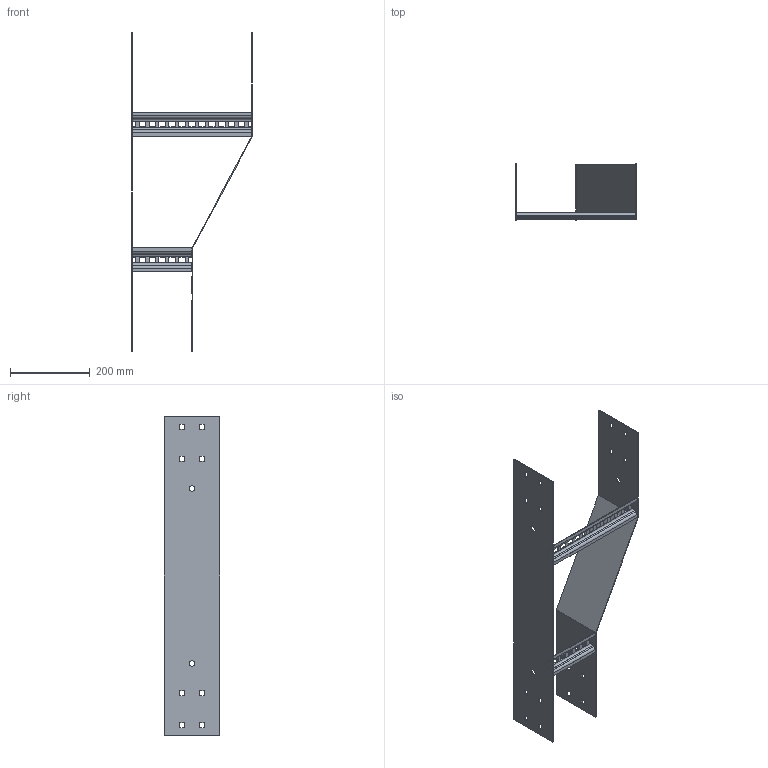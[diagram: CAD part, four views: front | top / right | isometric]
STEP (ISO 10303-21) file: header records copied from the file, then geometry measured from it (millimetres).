
FILE_DESCRIPTION (( 'STEP AP203' ), '1' );
FILE_NAME ('N20C LHR300150.STEP', '2024-08-28T21:51:58', ( '' ), ( '' ), 'SwSTEP 2.0', 'SolidWorks 2023', '' );
FILE_SCHEMA (( 'CONFIG_CONTROL_DESIGN' ));
Length unit declared in the file: millimetre
Products named in the file (5): N20C REDUCER_LHR150x300; N20C LHR300150; Ladder Rung_Ladder Rung -  150mm; Ladder Rung_Ladder Rung -  300mm; N20C Tee Back Plate_800
Assembly tree (4 placements, depth 2):
  N20C LHR300150
    N20C REDUCER_LHR150x300
    Ladder Rung_Ladder Rung -  150mm
    Ladder Rung_Ladder Rung -  300mm
    N20C Tee Back Plate_800
Bounding box: 304 x 140 x 800 mm (x, y, z)
Volume: 500729.2 mm3; surface area: 525797 mm2
Topology: 4 solids, 4 shells, 256 faces, 664 edges, 416 vertices
Faces by surface type: plane 228, cylinder 28
Entity records: 8271 total; most frequent: CARTESIAN_POINT 1343, ORIENTED_EDGE 1328, DIRECTION 1246, EDGE_CURVE 664, VECTOR 608, LINE 608, VERTEX_POINT 416, EDGE_LOOP 328
